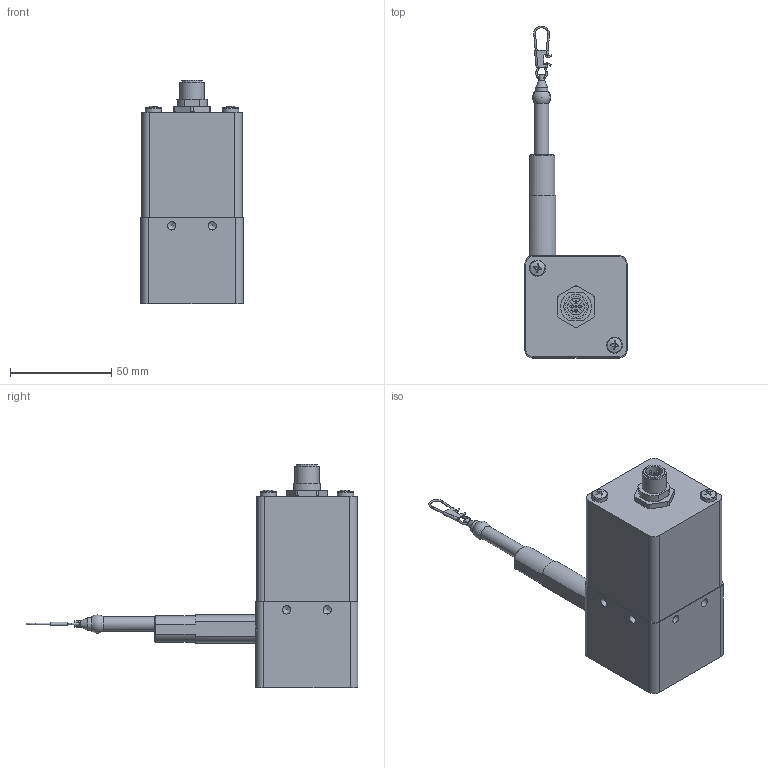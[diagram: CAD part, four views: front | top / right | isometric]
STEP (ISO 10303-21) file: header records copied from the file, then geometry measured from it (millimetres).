
FILE_DESCRIPTION((''),'2;1');
FILE_NAME('K:\Daten\WS10-2000-SB0.stp','2016-12-21T14:48:58',('kamp'),(''),'Autodesk Inventor 2008','Autodesk Inventor 2008','');
FILE_SCHEMA(('AUTOMOTIVE_DESIGN { 1 0 10303 214 1 1 1 1 }'));
Length unit declared in the file: millimetre
Products named in the file (1): Bauteil5
Bounding box: 50.35 x 163.79 x 110.4 mm (x, y, z)
Volume: 243922.2 mm3; surface area: 28977.1 mm2
Topology: 1 solids, 1 shells, 287 faces, 783 edges, 507 vertices
Faces by surface type: plane 159, cylinder 63, bspline 46, torus 7, cone 6, sphere 6
Full cylindrical faces by diameter (mm): 0.8 x1, 0.9 x7, 1 x5, 1.5 x1, 3 x1, 6 x1, 7 x1, 8 x2, 8.3 x1, 8.5 x2, 10.4 x1, 12 x1
Entity records: 10579 total; most frequent: CARTESIAN_POINT 3834, ORIENTED_EDGE 1392, DIRECTION 1215, EDGE_CURVE 696, VERTEX_POINT 481, AXIS2_PLACEMENT_3D 413, VECTOR 389, LINE 389
